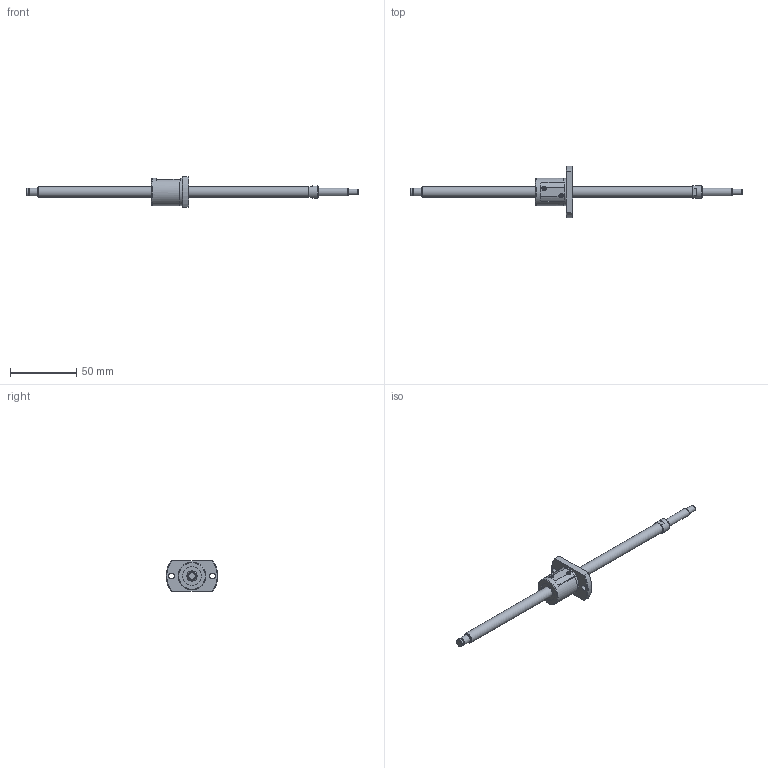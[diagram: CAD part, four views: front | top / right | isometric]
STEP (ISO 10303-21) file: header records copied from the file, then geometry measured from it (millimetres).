
FILE_DESCRIPTION(/* description */ ('STEP AP214'),/* implementation_level */ '2;1');
FILE_NAME(/* name */ 'SG0804-199R250C5B0X(85.5)',/* time_stamp */ '2026-07-21T16:50:35+02:00',/* author */ ('License CC BY-ND 4.0'),/* organization */ ('CADENAS'),/* preprocessor_version */ 'ST-DEVELOPER v20',/* originating_system */ 'PARTsolutions',/* authorisation */ ' ');
FILE_SCHEMA (('MODEL_BASED_INTEGRATED_MANUFACTURING_SCHEMA','PROCESS_PLANNING_SCHEMA','AP242_MANAGED_MODEL_BASED_3D_ENGINEERING_MIM_LF { 1 0 10303 442 3 1 4 }','AUTOMOTIVE_DESIGN {1 0 10303 214 3 1 1}'));
Length unit declared in the file: millimetre
Products named in the file (3): SG0804-199R250C5B0X(85.5); SG0804-199R250C5B_shaft; SG0804 C5_nut
Assembly tree (2 placements, depth 2):
  SG0804-199R250C5B0X(85.5)
    SG0804-199R250C5B_shaft
    SG0804 C5_nut
Bounding box: 250 x 39 x 23 mm (x, y, z)
Volume: 21890.1 mm3; surface area: 10641.5 mm2
Topology: 2 solids, 2 shells, 79 faces, 188 edges, 123 vertices
Faces by surface type: plane 38, cylinder 26, cone 14, torus 1
Full cylindrical faces by diameter (mm): 4.5 x3, 5.7 x1, 6 x3, 8 x2, 9.5 x1, 14 x2, 20.5 x1, 21 x1
Entity records: 2197 total; most frequent: CARTESIAN_POINT 408, DIRECTION 374, ORIENTED_EDGE 306, AXIS2_PLACEMENT_3D 157, EDGE_CURVE 153, EDGE_LOOP 120, FACE_BOUND 120, VERTEX_POINT 113
